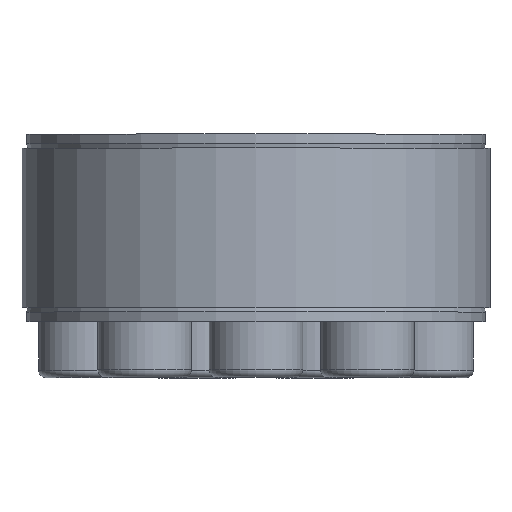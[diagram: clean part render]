
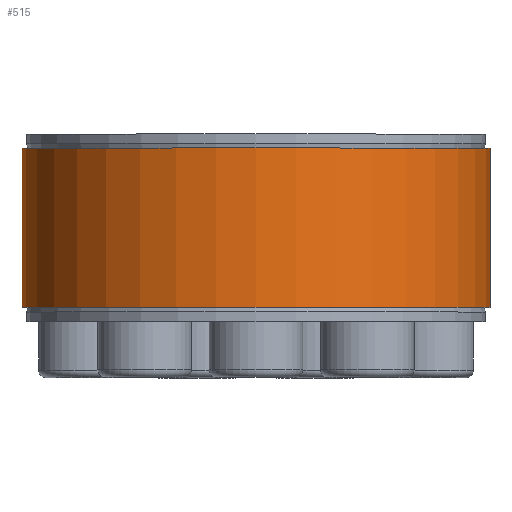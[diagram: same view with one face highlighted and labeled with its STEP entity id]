
A CAD part, top view. The second image highlights one B-rep face of the part: STEP entity #515.
In plain terms, the highlighted cylindrical face has radius 25 mm (diameter 50 mm), a partial arc.
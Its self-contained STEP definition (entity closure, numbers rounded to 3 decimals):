
#515 = ADVANCED_FACE( '', ( #959 ), #960, .T. );
#959 = FACE_OUTER_BOUND( '', #1622, .T. );
#960 = CYLINDRICAL_SURFACE( '', #1623, 25. );
#1622 = EDGE_LOOP( '', ( #2373, #2374, #2375, #2376 ) );
#1623 = AXIS2_PLACEMENT_3D( '', #2377, #2378, #2379 );
#2373 = ORIENTED_EDGE( '', *, *, #3886, .F. );
#2374 = ORIENTED_EDGE( '', *, *, #3887, .T. );
#2375 = ORIENTED_EDGE( '', *, *, #3888, .T. );
#2376 = ORIENTED_EDGE( '', *, *, #3889, .F. );
#2377 = CARTESIAN_POINT( '', ( 0., -60., 0. ) );
#2378 = DIRECTION( '', ( 0., -1., 0. ) );
#2379 = DIRECTION( '', ( 0., 0., 1. ) );
#3886 = EDGE_CURVE( '', #4348, #4349, #4350, .F. );
#3887 = EDGE_CURVE( '', #4348, #4351, #4352, .T. );
#3888 = EDGE_CURVE( '', #4351, #4353, #4354, .F. );
#3889 = EDGE_CURVE( '', #4349, #4353, #4355, .T. );
#4348 = VERTEX_POINT( '', #4970 );
#4349 = VERTEX_POINT( '', #4971 );
#4350 = LINE( '', #4972, #4973 );
#4351 = VERTEX_POINT( '', #4974 );
#4352 = CIRCLE( '', #4975, 25. );
#4353 = VERTEX_POINT( '', #4976 );
#4354 = LINE( '', #4977, #4978 );
#4355 = CIRCLE( '', #4979, 25. );
#4970 = CARTESIAN_POINT( '', ( 0.417, 8.5, -24.997 ) );
#4971 = CARTESIAN_POINT( '', ( 0.417, -8.5, -24.997 ) );
#4972 = CARTESIAN_POINT( '', ( 0.417, -60., -24.997 ) );
#4973 = VECTOR( '', #6069, 1000. );
#4974 = CARTESIAN_POINT( '', ( -0.417, 8.5, -24.997 ) );
#4975 = AXIS2_PLACEMENT_3D( '', #6070, #6071, #6072 );
#4976 = CARTESIAN_POINT( '', ( -0.417, -8.5, -24.997 ) );
#4977 = CARTESIAN_POINT( '', ( -0.417, -60., -24.997 ) );
#4978 = VECTOR( '', #6073, 1000. );
#4979 = AXIS2_PLACEMENT_3D( '', #6074, #6075, #6076 );
#6069 = DIRECTION( '', ( 0., 1., 0. ) );
#6070 = CARTESIAN_POINT( '', ( 0., 8.5, 0. ) );
#6071 = DIRECTION( '', ( 0., -1., 0. ) );
#6072 = DIRECTION( '', ( 0., 0., -1. ) );
#6073 = DIRECTION( '', ( 0., 1., 0. ) );
#6074 = CARTESIAN_POINT( '', ( 0., -8.5, 0. ) );
#6075 = DIRECTION( '', ( 0., -1., 0. ) );
#6076 = DIRECTION( '', ( 0., 0., -1. ) );
